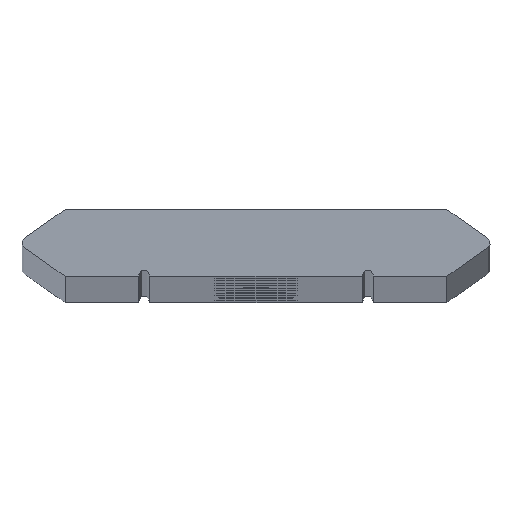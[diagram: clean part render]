
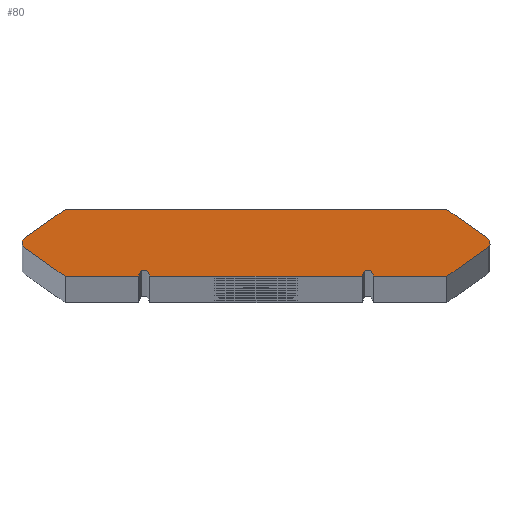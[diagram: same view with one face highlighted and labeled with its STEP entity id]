
A CAD part, top view. The second image highlights one B-rep face of the part: STEP entity #80.
In plain terms, the highlighted planar face has unit normal (0, 0, 1).
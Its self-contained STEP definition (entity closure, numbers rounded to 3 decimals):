
#80=ADVANCED_FACE('',(#170),#171,.F.);
#170=FACE_OUTER_BOUND('',#382,.T.);
#171=PLANE('',#383);
#382=EDGE_LOOP('',(#625,#626,#627,#628,#629,#630,#631,#632,#633,#634,#635,#636,#637,#638,#639,#640));
#383=AXIS2_PLACEMENT_3D('',#641,#642,#643);
#625=ORIENTED_EDGE('',*,*,#1028,.F.);
#626=ORIENTED_EDGE('',*,*,#1029,.F.);
#627=ORIENTED_EDGE('',*,*,#1030,.F.);
#628=ORIENTED_EDGE('',*,*,#1031,.F.);
#629=ORIENTED_EDGE('',*,*,#1032,.F.);
#630=ORIENTED_EDGE('',*,*,#1013,.F.);
#631=ORIENTED_EDGE('',*,*,#1033,.F.);
#632=ORIENTED_EDGE('',*,*,#1034,.F.);
#633=ORIENTED_EDGE('',*,*,#990,.F.);
#634=ORIENTED_EDGE('',*,*,#1035,.F.);
#635=ORIENTED_EDGE('',*,*,#1036,.F.);
#636=ORIENTED_EDGE('',*,*,#1037,.F.);
#637=ORIENTED_EDGE('',*,*,#1038,.F.);
#638=ORIENTED_EDGE('',*,*,#1039,.F.);
#639=ORIENTED_EDGE('',*,*,#1040,.F.);
#640=ORIENTED_EDGE('',*,*,#1041,.F.);
#641=CARTESIAN_POINT('',(-21.455,0.,0.));
#642=DIRECTION('',(0.,0.,-1.0));
#643=DIRECTION('',(-0.574,-0.819,0.));
#990=EDGE_CURVE('',#1103,#1105,#1106,.T.);
#1013=EDGE_CURVE('',#1149,#1145,#1151,.T.);
#1028=EDGE_CURVE('',#1178,#1179,#1180,.T.);
#1029=EDGE_CURVE('',#1181,#1178,#1182,.T.);
#1030=EDGE_CURVE('',#1183,#1181,#1184,.T.);
#1031=EDGE_CURVE('',#1185,#1183,#1186,.T.);
#1032=EDGE_CURVE('',#1145,#1185,#1187,.T.);
#1033=EDGE_CURVE('',#1188,#1149,#1189,.T.);
#1034=EDGE_CURVE('',#1105,#1188,#1190,.T.);
#1035=EDGE_CURVE('',#1191,#1103,#1192,.T.);
#1036=EDGE_CURVE('',#1193,#1191,#1194,.T.);
#1037=EDGE_CURVE('',#1195,#1193,#1196,.T.);
#1038=EDGE_CURVE('',#1197,#1195,#1198,.T.);
#1039=EDGE_CURVE('',#1199,#1197,#1200,.T.);
#1040=EDGE_CURVE('',#1201,#1199,#1202,.T.);
#1041=EDGE_CURVE('',#1179,#1201,#1203,.T.);
#1103=VERTEX_POINT('',#1312);
#1105=VERTEX_POINT('',#1315);
#1106=LINE('',#1316,#1317);
#1145=VERTEX_POINT('',#1357);
#1149=VERTEX_POINT('',#1363);
#1151=LINE('',#1366,#1367);
#1178=VERTEX_POINT('',#1404);
#1179=VERTEX_POINT('',#1405);
#1180=LINE('',#1406,#1407);
#1181=VERTEX_POINT('',#1408);
#1182=LINE('',#1409,#1410);
#1183=VERTEX_POINT('',#1411);
#1184=CIRCLE('',#1412,0.545);
#1185=VERTEX_POINT('',#1413);
#1186=LINE('',#1414,#1415);
#1187=LINE('',#1416,#1417);
#1188=VERTEX_POINT('',#1418);
#1189=CIRCLE('',#1419,0.5);
#1190=LINE('',#1420,#1421);
#1191=VERTEX_POINT('',#1422);
#1192=LINE('',#1423,#1424);
#1193=VERTEX_POINT('',#1425);
#1194=CIRCLE('',#1426,0.5);
#1195=VERTEX_POINT('',#1427);
#1196=LINE('',#1428,#1429);
#1197=VERTEX_POINT('',#1430);
#1198=LINE('',#1431,#1432);
#1199=VERTEX_POINT('',#1433);
#1200=LINE('',#1434,#1435);
#1201=VERTEX_POINT('',#1436);
#1202=CIRCLE('',#1437,0.545);
#1203=LINE('',#1438,#1439);
#1312=CARTESIAN_POINT('',(10.0,-3.14,0.));
#1315=CARTESIAN_POINT('',(-10.0,-3.14,0.));
#1316=CARTESIAN_POINT('',(-21.455,-3.14,0.));
#1317=VECTOR('',#1558,1.0);
#1357=CARTESIAN_POINT('',(-11.0,-3.14,0.));
#1363=CARTESIAN_POINT('',(-11.0,-3.01,0.));
#1366=CARTESIAN_POINT('',(-11.0,-3.01,0.));
#1367=VECTOR('',#1617,1.0);
#1404=CARTESIAN_POINT('',(-17.921,3.14,0.));
#1405=CARTESIAN_POINT('',(17.921,3.14,0.));
#1406=CARTESIAN_POINT('',(-21.455,3.14,0.));
#1407=VECTOR('',#1640,1.0);
#1408=CARTESIAN_POINT('',(-21.768,0.446,0.));
#1409=CARTESIAN_POINT('',(-21.768,0.446,0.));
#1410=VECTOR('',#1641,1.0);
#1411=CARTESIAN_POINT('',(-21.768,-0.446,0.));
#1412=AXIS2_PLACEMENT_3D('',#1642,#1643,#1644);
#1413=CARTESIAN_POINT('',(-17.921,-3.14,0.));
#1414=CARTESIAN_POINT('',(-17.821,-3.21,0.));
#1415=VECTOR('',#1645,1.0);
#1416=CARTESIAN_POINT('',(-21.455,-3.14,0.));
#1417=VECTOR('',#1646,1.0);
#1418=CARTESIAN_POINT('',(-10.0,-3.01,0.));
#1419=AXIS2_PLACEMENT_3D('',#1647,#1648,#1649);
#1420=CARTESIAN_POINT('',(-10.0,-3.21,0.));
#1421=VECTOR('',#1650,1.0);
#1422=CARTESIAN_POINT('',(10.0,-3.01,0.));
#1423=CARTESIAN_POINT('',(10.0,-3.01,0.));
#1424=VECTOR('',#1651,1.0);
#1425=CARTESIAN_POINT('',(11.0,-3.01,0.));
#1426=AXIS2_PLACEMENT_3D('',#1652,#1653,#1654);
#1427=CARTESIAN_POINT('',(11.0,-3.14,0.));
#1428=CARTESIAN_POINT('',(11.0,-3.21,0.));
#1429=VECTOR('',#1655,1.0);
#1430=CARTESIAN_POINT('',(17.921,-3.14,0.));
#1431=CARTESIAN_POINT('',(-21.455,-3.14,0.));
#1432=VECTOR('',#1656,1.0);
#1433=CARTESIAN_POINT('',(21.768,-0.446,0.));
#1434=CARTESIAN_POINT('',(21.768,-0.446,0.));
#1435=VECTOR('',#1657,1.0);
#1436=CARTESIAN_POINT('',(21.768,0.446,0.));
#1437=AXIS2_PLACEMENT_3D('',#1658,#1659,#1660);
#1438=CARTESIAN_POINT('',(17.821,3.21,0.));
#1439=VECTOR('',#1661,1.0);
#1558=DIRECTION('',(-1.0,0.,0.));
#1617=DIRECTION('',(0.,-1.0,0.));
#1640=DIRECTION('',(1.0,0.,0.));
#1641=DIRECTION('',(0.819,0.574,0.));
#1642=CARTESIAN_POINT('',(-21.455,0.,0.));
#1643=DIRECTION('',(0.,0.,-1.0));
#1644=DIRECTION('',(1.0,0.,0.));
#1645=DIRECTION('',(-0.819,0.574,0.));
#1646=DIRECTION('',(-1.0,0.,0.));
#1647=CARTESIAN_POINT('',(-10.5,-3.01,0.));
#1648=DIRECTION('',(0.,0.,1.0));
#1649=DIRECTION('',(1.0,0.,0.));
#1650=DIRECTION('',(0.,1.0,0.));
#1651=DIRECTION('',(0.,-1.0,0.));
#1652=CARTESIAN_POINT('',(10.5,-3.01,0.));
#1653=DIRECTION('',(0.,0.,1.0));
#1654=DIRECTION('',(1.0,0.,0.));
#1655=DIRECTION('',(0.,1.0,0.));
#1656=DIRECTION('',(-1.0,0.,0.));
#1657=DIRECTION('',(-0.819,-0.574,0.));
#1658=CARTESIAN_POINT('',(21.455,0.,0.));
#1659=DIRECTION('',(0.,0.,-1.0));
#1660=DIRECTION('',(1.0,0.,0.));
#1661=DIRECTION('',(0.819,-0.574,0.));
